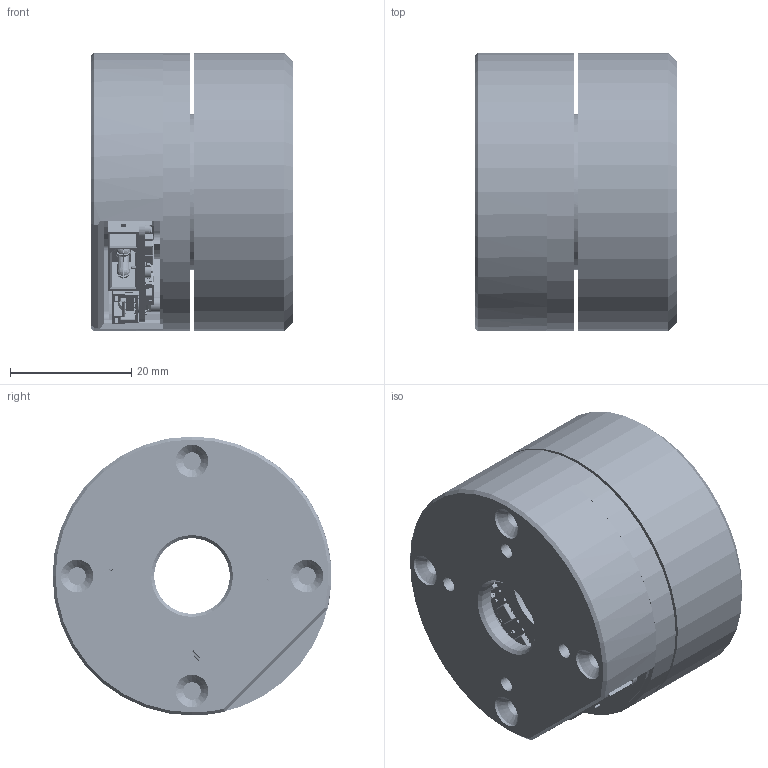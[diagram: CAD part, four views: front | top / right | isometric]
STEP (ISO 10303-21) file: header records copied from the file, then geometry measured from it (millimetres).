
FILE_DESCRIPTION (( 'STEP AP203' ), '1' );
FILE_NAME ('GL40II-KV82.5-加驱动.STEP', '2024-08-09T07:45:51', ( '' ), ( '' ), 'SwSTEP 2.0', 'SolidWorks 2021', '' );
FILE_SCHEMA (( 'CONFIG_CONTROL_DESIGN' ));
Length unit declared in the file: millimetre
Products named in the file (1): GL40II-KV82.5-加驱动
Bounding box: 33.5 x 46.1 x 46.1 mm (x, y, z)
Volume: 28639.2 mm3; surface area: 31670.2 mm2
Topology: 394 solids, 404 shells, 15023 faces, 38369 edges, 24061 vertices
Faces by surface type: plane 9520, cylinder 2597, bspline 1778, sphere 714, cone 241, torus 173
Entity records: 541626 total; most frequent: CARTESIAN_POINT 191207, ORIENTED_EDGE 75456, DIRECTION 66080, EDGE_CURVE 37728, VECTOR 28194, LINE 28194, VERTEX_POINT 24059, AXIS2_PLACEMENT_3D 18943
